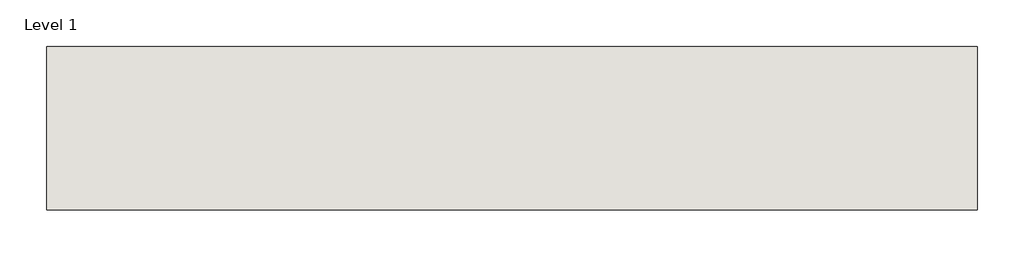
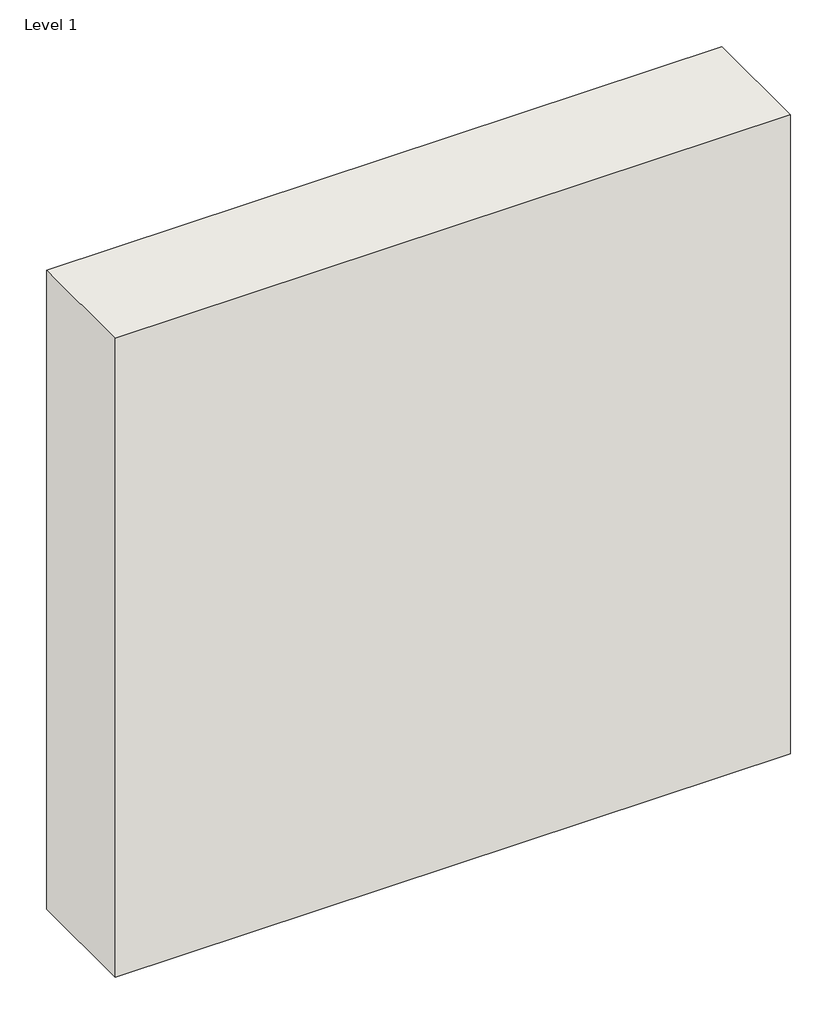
# One storey: 1 wall.
"""IFC4 building model written with IfcOpenShell, lengths in millimetres."""

from ifc_helpers import new_model, si_unit, origin, origin_with_axes, place, context, project, spatial, polyline, outline, extrude, element, save

model = new_model("IFC4")

# Units and contexts
model_context = context("Model", 3, world=origin())
ifc_project = project(units=[si_unit("LENGTHUNIT", "METRE", prefix="MILLI")], contexts=[model_context])

# Site, building, storey
site = spatial("IfcSite", under=ifc_project)
building = spatial("IfcBuilding", under=site)
storey = spatial("IfcBuildingStorey", under=building, Name="Level 1", Elevation=0.0)

# Wall
placement = place(None, origin())
element("IfcWall", 1, ObjectType="GYPTEC-DIVISÓRIA DUPLA 176 BA13A", at=placement, inside=storey, context=model_context, shape_type="SweptSolid", body=[
    extrude(outline(polyline([(1000.0, -28.0), (0.0, -28.0), (0.0, 148.0), (1000.0, 148.0), (1000.0, -28.0)])), origin_with_axes(), (0.0, 0.0, 1.0), 1000.0),
])

save(model, "model.ifc")
